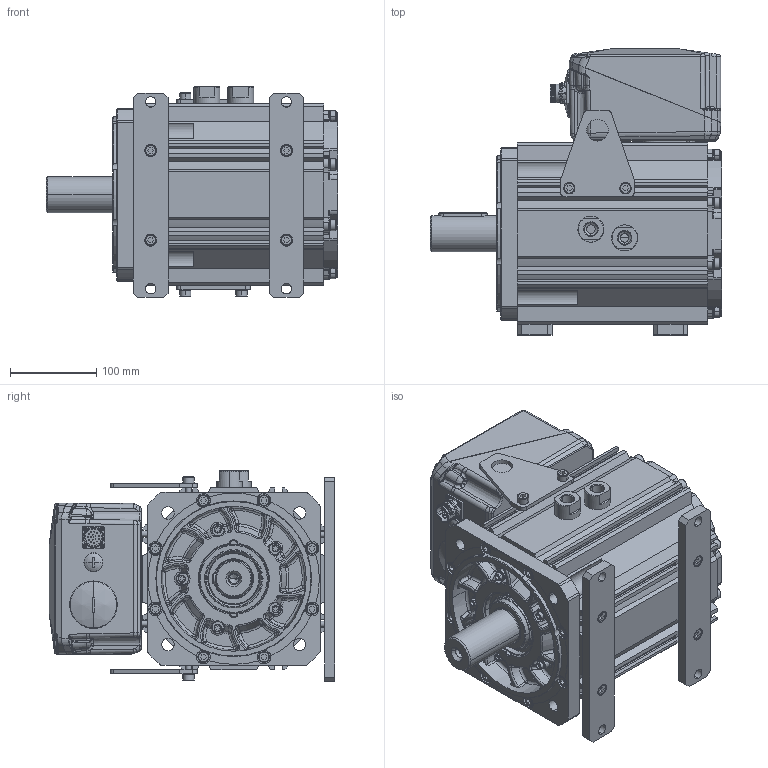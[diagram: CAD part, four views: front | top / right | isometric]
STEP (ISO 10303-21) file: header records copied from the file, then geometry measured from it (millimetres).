
FILE_DESCRIPTION((''),'2;1');
FILE_NAME('67976N-0_SW0002','2016-07-05T',('yanyerong'),(''),'PRO/ENGINEER BY PARAMETRIC TECHNOLOGY CORPORATION, 2010430','PRO/ENGINEER BY PARAMETRIC TECHNOLOGY CORPORATION, 2010430','');
FILE_SCHEMA(('CONFIG_CONTROL_DESIGN'));
Products named in the file (1): 67976N-0_SW0002
Bounding box: 337.5 x 330.5 x 243.64 mm (x, y, z)
Surface area: 1031922.3 mm2 (no closed solid volume)
Topology: 0 solids, 119 shells, 2691 faces, 7277 edges, 4712 vertices
Faces by surface type: plane 883, cylinder 668, bspline 536, torus 273, cone 261, sphere 70
Entity records: 127435 total; most frequent: CARTESIAN_POINT 63480, ORIENTED_EDGE 13283, DIRECTION 12662, EDGE_CURVE 7271, AXIS2_PLACEMENT_3D 4871, VERTEX_POINT 4712, EDGE_LOOP 2971, VECTOR 2920
